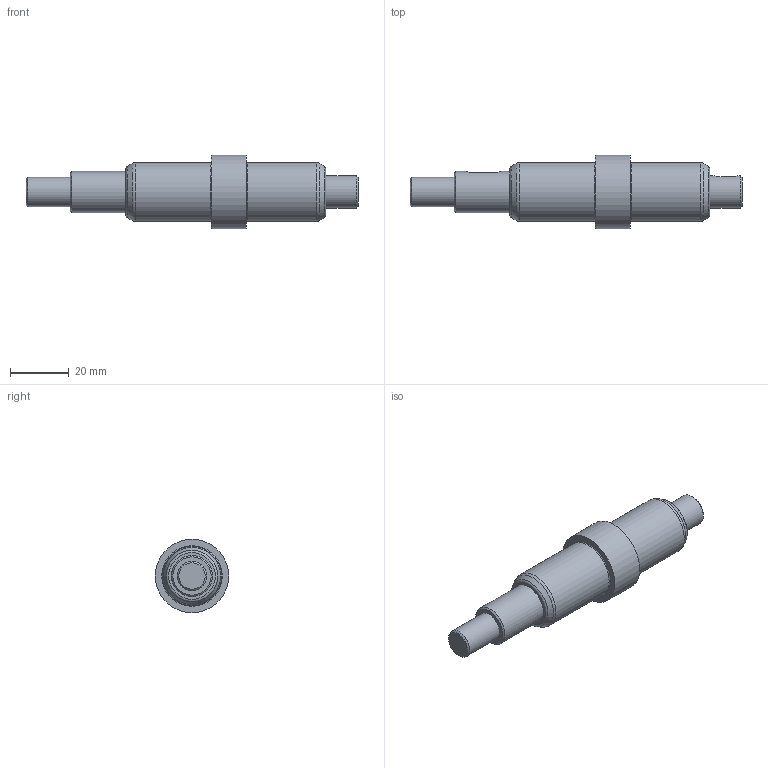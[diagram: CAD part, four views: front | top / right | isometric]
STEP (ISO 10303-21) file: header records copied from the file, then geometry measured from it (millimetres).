
FILE_DESCRIPTION(/* description */ (''),/* implementation_level */ '2;1');
FILE_NAME(/* name */ '',/* time_stamp */ '2024-04-08T11:16:17+09:00',/* author */ ('jhkim'),/* organization */ (''),/* preprocessor_version */ 'ST-DEVELOPER v20',/* originating_system */ 'Autodesk Inventor 2025',/* authorisation */ '');
FILE_SCHEMA (('AUTOMOTIVE_DESIGN { 1 0 10303 214 3 1 1 }'));
Length unit declared in the file: millimetre
Products named in the file (1): 축
Bounding box: 113 x 25 x 25 mm (x, y, z)
Volume: 28068.9 mm3; surface area: 7139.1 mm2
Topology: 1 solids, 1 shells, 36 faces, 84 edges, 57 vertices
Faces by surface type: plane 13, cylinder 11, cone 6, torus 6
Full cylindrical faces by diameter (mm): 3.242 x1, 10 x1, 11 x1, 14 x1, 20 x2, 25 x1
Entity records: 1152 total; most frequent: CARTESIAN_POINT 249, DIRECTION 195, ORIENTED_EDGE 166, EDGE_CURVE 83, AXIS2_PLACEMENT_3D 83, VERTEX_POINT 57, CIRCLE 46, EDGE_LOOP 44
